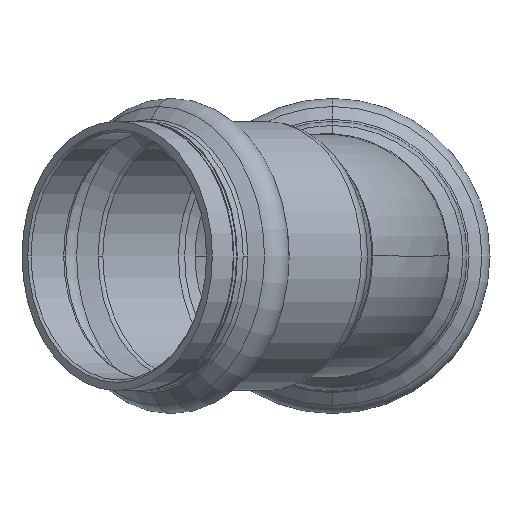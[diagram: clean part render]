
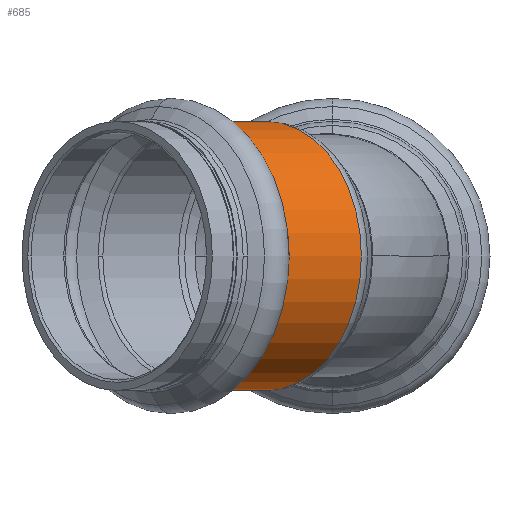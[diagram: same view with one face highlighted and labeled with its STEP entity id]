
A CAD part, left-side view. The second image highlights one B-rep face of the part: STEP entity #685.
In plain terms, the highlighted cylindrical face has radius 23 mm (diameter 46 mm), a partial arc.
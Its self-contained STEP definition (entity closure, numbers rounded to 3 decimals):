
#67 = VERTEX_POINT ( 'NONE', #479 ) ;
#130 = EDGE_CURVE ( 'NONE', #1978, #2483, #3341, .T. ) ;
#207 = ORIENTED_EDGE ( 'NONE', *, *, #3084, .T. ) ;
#225 = DIRECTION ( 'NONE',  ( 0.707, -0.707, 0. ) ) ;
#285 = VECTOR ( 'NONE', #1042, 1000. ) ;
#479 = CARTESIAN_POINT ( 'NONE',  ( -23.641, 23.641, 23. ) ) ;
#582 = EDGE_LOOP ( 'NONE', ( #2695, #1878, #207, #3965, #2938 ) ) ;
#627 = DIRECTION ( 'NONE',  ( 0.707, 0.707, 0. ) ) ;
#678 = DIRECTION ( 'NONE',  ( 0.707, -0.707, 0. ) ) ;
#685 = ADVANCED_FACE ( 'NONE', ( #3294 ), #3495, .T. ) ;
#747 = CARTESIAN_POINT ( 'NONE',  ( -23.641, 23.641, 0. ) ) ;
#803 = CARTESIAN_POINT ( 'NONE',  ( -11.314, 11.314, 0. ) ) ;
#808 = DIRECTION ( 'NONE',  ( 0.707, -0.707, 0. ) ) ;
#811 = DIRECTION ( 'NONE',  ( 0., 0., -1. ) ) ;
#938 = LINE ( 'NONE', #2300, #3433 ) ;
#980 = CARTESIAN_POINT ( 'NONE',  ( -39.905, 7.378, 0. ) ) ;
#1042 = DIRECTION ( 'NONE',  ( -0.707, 0.707, 0. ) ) ;
#1231 = LINE ( 'NONE', #2509, #285 ) ;
#1254 = AXIS2_PLACEMENT_3D ( 'NONE', #2598, #2537, #2579 ) ;
#1314 = EDGE_CURVE ( 'NONE', #1584, #1813, #4000, .T. ) ;
#1584 = VERTEX_POINT ( 'NONE', #980 ) ;
#1614 = AXIS2_PLACEMENT_3D ( 'NONE', #747, #678, #627 ) ;
#1676 = CARTESIAN_POINT ( 'NONE',  ( -23.641, 23.641, 0. ) ) ;
#1813 = VERTEX_POINT ( 'NONE', #2787 ) ;
#1878 = ORIENTED_EDGE ( 'NONE', *, *, #3030, .T. ) ;
#1978 = VERTEX_POINT ( 'NONE', #2832 ) ;
#2300 = CARTESIAN_POINT ( 'NONE',  ( -25.175, 25.175, 23. ) ) ;
#2384 = DIRECTION ( 'NONE',  ( 0.707, 0.707, 0. ) ) ;
#2483 = VERTEX_POINT ( 'NONE', #3028 ) ;
#2509 = CARTESIAN_POINT ( 'NONE',  ( -25.175, 25.175, -23. ) ) ;
#2537 = DIRECTION ( 'NONE',  ( -0.707, 0.707, 0. ) ) ;
#2579 = DIRECTION ( 'NONE',  ( 0., 0., -1. ) ) ;
#2598 = CARTESIAN_POINT ( 'NONE',  ( -25.175, 25.175, 0. ) ) ;
#2611 = DIRECTION ( 'NONE',  ( -0.707, 0.707, 0. ) ) ;
#2646 = CIRCLE ( 'NONE', #1614, 23. ) ;
#2695 = ORIENTED_EDGE ( 'NONE', *, *, #130, .F. ) ;
#2787 = CARTESIAN_POINT ( 'NONE',  ( -23.641, 23.641, -23. ) ) ;
#2832 = CARTESIAN_POINT ( 'NONE',  ( -11.314, 11.314, 23. ) ) ;
#2922 = AXIS2_PLACEMENT_3D ( 'NONE', #803, #808, #811 ) ;
#2938 = ORIENTED_EDGE ( 'NONE', *, *, #3297, .F. ) ;
#3028 = CARTESIAN_POINT ( 'NONE',  ( -11.314, 11.314, -23. ) ) ;
#3030 = EDGE_CURVE ( 'NONE', #1978, #67, #938, .T. ) ;
#3084 = EDGE_CURVE ( 'NONE', #67, #1584, #2646, .T. ) ;
#3294 = FACE_OUTER_BOUND ( 'NONE', #582, .T. ) ;
#3297 = EDGE_CURVE ( 'NONE', #2483, #1813, #1231, .T. ) ;
#3341 = CIRCLE ( 'NONE', #2922, 23. ) ;
#3433 = VECTOR ( 'NONE', #2611, 1000. ) ;
#3495 = CYLINDRICAL_SURFACE ( 'NONE', #1254, 23. ) ;
#3642 = AXIS2_PLACEMENT_3D ( 'NONE', #1676, #225, #2384 ) ;
#3965 = ORIENTED_EDGE ( 'NONE', *, *, #1314, .T. ) ;
#4000 = CIRCLE ( 'NONE', #3642, 23. ) ;
